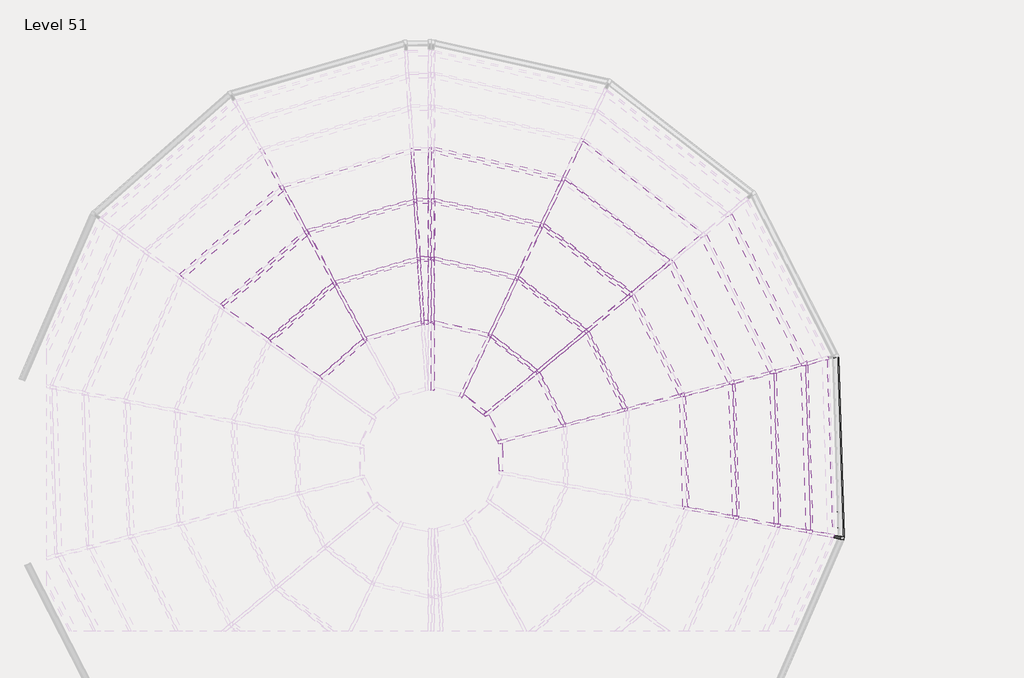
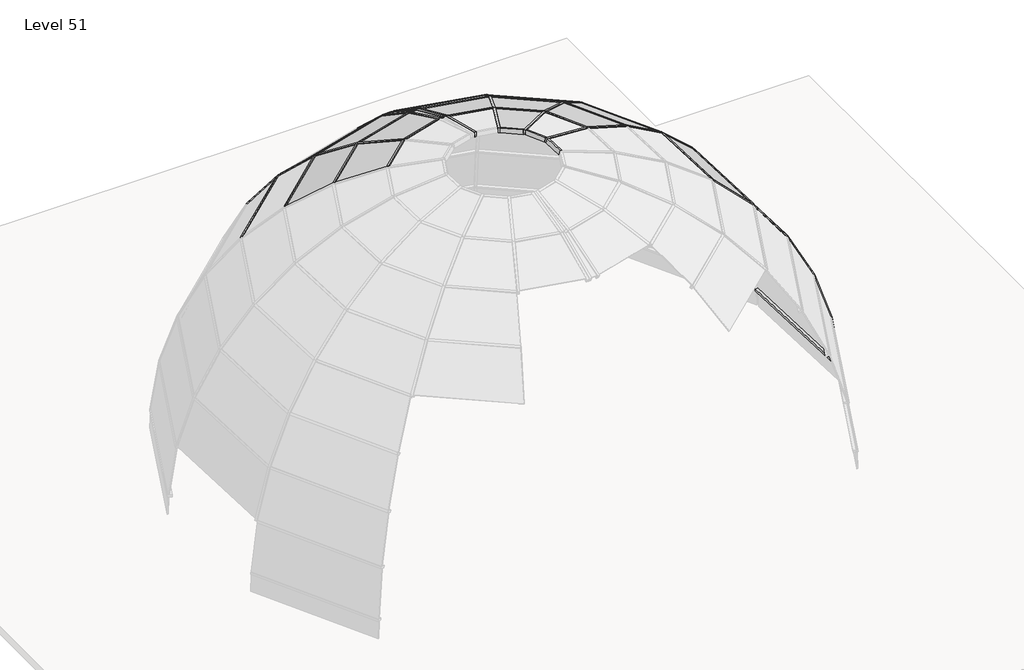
# One storey, part 4 of 5: 65 members, 22 plates.
"""IFC4 building model written with IfcOpenShell, lengths in millimetres."""

from ifc_helpers import new_model, si_unit, origin, place, context, project, spatial, transform, mapped, element, save
from components import member_1612663b, member_5eaec6db, member_d183bd50, member_4ad3c4be, member_d9f9b3f1, member_ae036e1e, member_bd7755a3, member_65743db0, member_8796500f, member_d21742c5, member_627e65e0, member_8f2bf440, member_043ce83e, member_7aba495a, member_8cadeb42, member_01029f2d, member_d292a8f8, member_6dba6968, member_1f719ff4, member_3d2e33c7, member_de41bbd8, member_34720ac7, member_73d42494, member_53f4afea, system_panel_glazed_481fb3e2, system_panel_glazed_4b6f7700, system_panel_glazed_05ceb18a, system_panel_glazed_4ea4b272, system_panel_glazed_3717604a, system_panel_glazed_08e752b3, system_panel_glazed_176c9cdb, system_panel_glazed_a0e9b47a, system_panel_glazed_7ce28d7e, system_panel_glazed_21487f38, system_panel_glazed_bc7ae3a6, system_panel_glazed_73e2dce4, system_panel_glazed_cf9631f2

model = new_model("IFC4")

# Units and contexts
model_context = context("Model", 3, world=origin())
ifc_project = project(units=[si_unit("LENGTHUNIT", "METRE", prefix="MILLI")], contexts=[model_context])

# Site, building, storey
site = spatial("IfcSite", under=ifc_project)
building = spatial("IfcBuilding", under=site)
storey = spatial("IfcBuildingStorey", under=building, Name="Level 51", Elevation=152400.0)

# Members
placement = place(None, origin())
member_shape = member_1612663b(model_context)
element("IfcMember", 1, ObjectType="Rectangular Mullion : 2.5\" x 5\" rectangular", at=placement, inside=storey, context=model_context, shape_type="MappedRepresentation", body=[
    mapped(member_shape, transform((2074.6498393, -3557.8360018, 161037.7653816), x_axis=(0.8767485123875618, 0.48094910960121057, 0.0), y_axis=(-0.19511831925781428, 0.3556918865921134, 0.9140088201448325), z_axis=(0.43959172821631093, -0.8013558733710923, 0.40569431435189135))),
])
element("IfcMember", 2, ObjectType="Rectangular Mullion : 2.5\" x 5\" rectangular", at=placement, inside=storey, context=model_context, shape_type="MappedRepresentation", body=[
    mapped(member_shape, transform((1404.7120455, -2336.5696508, 160419.4872466), x_axis=(0.8767485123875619, 0.4809491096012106, 0.0), y_axis=(-0.26541879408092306, 0.4838464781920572, 0.8339337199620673), z_axis=(0.40107968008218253, -0.7311501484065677, 0.5518646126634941))),
])
element("IfcMember", 3, ObjectType="Rectangular Mullion : 2.5\" x 5\" rectangular", at=placement, inside=storey, context=model_context, shape_type="MappedRepresentation", body=[
    mapped(member_shape, transform((793.4666131, -1222.2968246, 159578.4455769), x_axis=(0.876748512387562, 0.4809491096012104, 0.0), y_axis=(-0.32834652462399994, 0.5985608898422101, 0.7306937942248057), z_axis=(0.3514265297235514, -0.6406346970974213, 0.6827053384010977))),
])
element("IfcMember", 4, ObjectType="Rectangular Mullion : 2.5\" x 5\" rectangular", at=placement, inside=storey, context=model_context, shape_type="MappedRepresentation", body=[
    mapped(member_shape, transform((257.8925818, -245.9695463, 158538.0026411), x_axis=(0.876748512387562, 0.4809491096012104, 0.0), y_axis=(-0.38215351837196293, 0.6966486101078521, 0.6071568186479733), z_axis=(0.2920115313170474, -0.5323238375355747, 0.7945820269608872))),
])
element("IfcMember", 5, ObjectType="Rectangular Mullion : 2.5\" x 5\" rectangular", at=placement, inside=storey, context=model_context, shape_type="MappedRepresentation", body=[
    mapped(member_shape, transform((3332.4539608, -3193.7660529, 161037.7653816), x_axis=(0.9980933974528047, 0.0617217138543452, 0.0), y_axis=(-0.025040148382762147, 0.40492081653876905, 0.9140088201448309), z_axis=(0.056414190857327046, -0.9122661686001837, 0.405694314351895))),
])
element("IfcMember", 6, ObjectType="Rectangular Mullion : 2.5\" x 5\" rectangular", at=placement, inside=storey, context=model_context, shape_type="MappedRepresentation", body=[
    mapped(member_shape, transform((3246.4787339, -1803.472412, 160419.4872466), x_axis=(0.9980933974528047, 0.06172171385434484, 0.0), y_axis=(-0.034062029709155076, 0.5508124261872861, 0.8339337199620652), z_axis=(0.05147181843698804, -0.8323437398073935, 0.5518646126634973))),
])
element("IfcMember", 7, ObjectType="Rectangular Mullion : 2.5\" x 5\" rectangular", at=placement, inside=storey, context=model_context, shape_type="MappedRepresentation", body=[
    mapped(member_shape, transform((3168.0356826, -534.9805525, 159578.4455769), x_axis=(0.9980933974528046, 0.06172171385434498, 0.0), y_axis=(-0.042137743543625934, 0.6814036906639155, 0.7306937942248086), z_axis=(0.045099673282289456, -0.7293006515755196, 0.6827053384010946))),
])
element("IfcMember", 8, ObjectType="Rectangular Mullion : 2.5\" x 5\" rectangular", at=placement, inside=storey, context=model_context, shape_type="MappedRepresentation", body=[
    mapped(member_shape, transform((5829.9859298, -4276.5865903, 161037.7653816), x_axis=(0.6371882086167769, -0.7707082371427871, 0.0), y_axis=(0.31267194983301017, 0.25850363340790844, 0.9140088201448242), z_axis=(-0.7044341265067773, -0.582395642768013, 0.4056943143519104))),
])
element("IfcMember", 9, ObjectType="Rectangular Mullion : 2.5\" x 5\" rectangular", at=placement, inside=storey, context=model_context, shape_type="MappedRepresentation", body=[
    mapped(member_shape, transform((6903.5435386, -3389.0156308, 160419.4872466), x_axis=(0.6371882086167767, -0.7707082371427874, 0.0), y_axis=(0.42532660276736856, 0.35164162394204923, 0.8339337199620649), z_axis=(-0.6427195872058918, -0.5313727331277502, 0.5518646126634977))),
])
element("IfcMember", 10, ObjectType="Rectangular Mullion : 2.5\" x 5\" rectangular", at=placement, inside=storey, context=model_context, shape_type="MappedRepresentation", body=[
    mapped(member_shape, transform((7883.0481895, -2579.2035855, 159578.4455769), x_axis=(0.6371882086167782, -0.7707082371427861, 0.0), y_axis=(0.5261666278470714, 0.43501179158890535, 0.7306937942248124), z_axis=(-0.5631517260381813, -0.4655894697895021, 0.6827053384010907))),
])
element("IfcMember", 11, ObjectType="Rectangular Mullion : 2.5\" x 5\" rectangular", at=placement, inside=storey, context=model_context, shape_type="MappedRepresentation", body=[
    mapped(member_shape, transform((6424.0103903, -5443.5283524, 161037.7653816), x_axis=(0.2482453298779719, -0.9686971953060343, 0.0), y_axis=(0.39299494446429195, 0.10071171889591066, 0.9140088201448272), z_axis=(-0.8853977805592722, -0.22689842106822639, 0.40569431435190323))),
])
element("IfcMember", 12, ObjectType="Rectangular Mullion : 2.5\" x 5\" rectangular", at=placement, inside=storey, context=model_context, shape_type="MappedRepresentation", body=[
    mapped(member_shape, transform((7773.3566078, -5097.7351586, 160419.4872466), x_axis=(0.24824532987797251, -0.9686971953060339, 0.0), y_axis=(0.53458970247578, 0.13699781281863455, 0.8339337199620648), z_axis=(-0.8078292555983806, -0.20702015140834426, 0.551864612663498))),
])
element("IfcMember", 13, ObjectType="Rectangular Mullion : 2.5\" x 5\" rectangular", at=placement, inside=storey, context=model_context, shape_type="MappedRepresentation", body=[
    mapped(member_shape, transform((9004.4883934, -4782.2364479, 159578.4455769), x_axis=(0.24824532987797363, -0.9686971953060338, 0.0), y_axis=(0.6613347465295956, 0.16947841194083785, 0.7306937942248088), z_axis=(-0.7078210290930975, -0.18139132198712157, 0.6827053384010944))),
])
element("IfcMember", 14, ObjectType="Rectangular Mullion : 2.5\" x 5\" rectangular", at=placement, inside=storey, context=model_context, shape_type="MappedRepresentation", body=[
    mapped(member_shape, transform((10083.2076417, -4505.7960732, 158538.0026411), x_axis=(0.2482453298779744, -0.9686971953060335, 0.0), y_axis=(0.7697093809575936, 0.19725127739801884, 0.6071568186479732), z_axis=(-0.5881511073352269, -0.15072384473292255, 0.7945820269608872))),
])
element("IfcMember", 15, ObjectType="Rectangular Mullion : 2.5\" x 5\" rectangular", at=placement, inside=storey, context=model_context, shape_type="MappedRepresentation", body=[
    mapped(member_shape, transform((10979.5499293, -4276.0929338, 157327.0596321), x_axis=(0.24824532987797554, -0.9686971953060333, 0.0), y_axis=(0.8567031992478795, 0.21954494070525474, 0.4667543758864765), z_axis=(-0.4521436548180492, -0.11586959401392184, 0.8843869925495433))),
])
element("IfcMember", 16, ObjectType="Rectangular Mullion : 2.5\" x 5\" rectangular", at=placement, inside=storey, context=model_context, shape_type="MappedRepresentation", body=[
    mapped(member_shape, transform((11668.6168592, -4099.5076725, 155979.2538554), x_axis=(0.2482453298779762, -0.968697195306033, 0.0), y_axis=(0.9198997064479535, 0.23574013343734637, 0.3133865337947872), z_axis=(-0.30357665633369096, -0.07779674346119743, 0.9496256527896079))),
])
element("IfcMember", 17, ObjectType="Rectangular Mullion : 2.5\" x 5\" rectangular", at=placement, inside=storey, context=model_context, shape_type="MappedRepresentation", body=[
    mapped(member_shape, transform((9080.8140565, -7253.0979003, 159578.4455769), x_axis=(-0.18798237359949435, -0.9821724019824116, 0.0), y_axis=(0.6705343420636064, -0.12833656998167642, 0.7306937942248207), z_axis=(-0.7176672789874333, 0.1373575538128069, 0.6827053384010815))),
])
element("IfcMember", 18, ObjectType="Rectangular Mullion : 2.5\" x 5\" rectangular", at=placement, inside=storey, context=model_context, shape_type="MappedRepresentation", body=[
    mapped(member_shape, transform((10174.5389897, -7462.4308123, 158538.0026411), x_axis=(-0.18798237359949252, -0.9821724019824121, 0.0), y_axis=(0.7804165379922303, -0.14936741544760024, 0.6071568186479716), z_axis=(-0.596332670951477, 0.114134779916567, 0.7945820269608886))),
])
element("IfcMember", 19, ObjectType="Rectangular Mullion : 2.5\" x 5\" rectangular", at=placement, inside=storey, context=model_context, shape_type="MappedRepresentation", body=[
    mapped(member_shape, transform((11083.3499802, -7636.3722169, 157327.0596321), x_axis=(-0.1879823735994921, -0.9821724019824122, 0.0), y_axis=(0.8686204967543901, -0.1662491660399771, 0.46675437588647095), z_axis=(-0.45843326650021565, 0.08774159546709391, 0.8843869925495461))),
])
element("IfcMember", 20, ObjectType="Rectangular Mullion : 2.5\" x 5\" rectangular", at=placement, inside=storey, context=model_context, shape_type="MappedRepresentation", body=[
    mapped(member_shape, transform((11782.0022783, -7770.0904084, 155979.2538554), x_axis=(-0.18798237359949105, -0.9821724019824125, 0.0), y_axis=(0.9326961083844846, -0.17851288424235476, 0.31338653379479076), z_axis=(-0.3077996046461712, 0.058911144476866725, 0.9496256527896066))),
])
element("IfcMember", 21, ObjectType="Rectangular Mullion : 2.5\" x 5\" rectangular", at=placement, inside=storey, context=model_context, shape_type="MappedRepresentation", body=[
    mapped(member_shape, transform((4795.5140645, -3473.7876769, 161037.7653816), x_axis=(0.9047619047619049, -0.42591770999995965, 0.0), y_axis=(0.17279239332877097, 0.36705676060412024, 0.9140088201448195), z_axis=(-0.3892925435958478, -0.8269603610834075, 0.4056943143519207))),
])
element("IfcMember", 22, ObjectType="Rectangular Mullion : 2.5\" x 5\" rectangular", at=placement, inside=storey, context=model_context, shape_type="MappedRepresentation", body=[
    mapped(member_shape, transform((5388.7959009, -2213.5000866, 160419.4872466), x_axis=(0.904761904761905, -0.4259177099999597, 0.0), y_axis=(0.23504891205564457, 0.4993060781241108, 0.8339337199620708), z_axis=(-0.35518714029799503, -0.754511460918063, 0.551864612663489))),
])
element("IfcMember", 23, ObjectType="Rectangular Mullion : 2.5\" x 5\" rectangular", at=placement, inside=storey, context=model_context, shape_type="MappedRepresentation", body=[
    mapped(member_shape, transform((5930.1011027, -1063.6246202, 159578.4455769), x_axis=(0.9047619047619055, -0.4259177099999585, 0.0), y_axis=(0.29077629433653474, 0.61768578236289, 0.730693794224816), z_axis=(-0.31121542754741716, -0.661103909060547, 0.6827053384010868))),
])
element("IfcMember", 24, ObjectType="Rectangular Mullion : 2.5\" x 5\" rectangular", at=placement, inside=storey, context=model_context, shape_type="MappedRepresentation", body=[
    mapped(member_shape, transform((6404.3934143, -56.1022627, 158538.0026411), x_axis=(0.9047619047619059, -0.42591770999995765, 0.0), y_axis=(0.33842655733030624, 0.7189075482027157, 0.6071568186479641), z_axis=(-0.2585988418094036, -0.5493323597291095, 0.7945820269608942))),
])
member_2_shape = member_5eaec6db(model_context)
element("IfcMember", 25, ObjectType="Rectangular Mullion : 2.5\" x 5\" rectangular", at=placement, inside=storey, context=model_context, shape_type="MappedRepresentation", body=[
    mapped(member_2_shape, transform((12251.0888758, -7859.8709926, 154532.0243606), x_axis=(-0.1879823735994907, -0.9821724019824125, 0.0), y_axis=(0.9708634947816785, -0.18581791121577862, 0.1513135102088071), z_axis=(-0.14861595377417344, 0.028444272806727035, 0.988485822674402))),
])
member_3_shape = member_d183bd50(model_context)
element("IfcMember", 26, ObjectType="Rectangular Mullion : 2.5\" x 5\" rectangular", at=placement, inside=storey, context=model_context, shape_type="MappedRepresentation", body=[
    mapped(member_3_shape, transform((12476.5992898, -7871.4852016, 153025.5719668), x_axis=(0.07006123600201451, 0.00216421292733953, -0.9975403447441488), y_axis=(0.9970647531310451, 0.030799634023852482, 0.07009465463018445), z_axis=(0.030875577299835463, -0.9995232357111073, 0.0))),
])
member_4_shape = member_4ad3c4be(model_context)
element("IfcMember", 27, ObjectType="Rectangular Mullion : 2.5\" x 5\" rectangular", at=placement, inside=storey, context=model_context, shape_type="MappedRepresentation", body=[
    mapped(member_4_shape, transform((11082.3696806, -7604.6373542, 157327.0596321), x_axis=(0.5479103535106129, 0.016925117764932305, -0.83636582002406), y_axis=(0.8359670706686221, 0.025823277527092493, 0.5481717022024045), z_axis=(0.030875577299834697, -0.9995232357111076, 0.0))),
])
element("IfcMember", 28, ObjectType="Rectangular Mullion : 2.5\" x 5\" rectangular", at=placement, inside=storey, context=model_context, shape_type="MappedRepresentation", body=[
    mapped(member_4_shape, transform((10965.1465515, -4247.7979659, 157327.0596321), x_axis=(0.48851970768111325, 0.24867792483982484, -0.8363658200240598), y_axis=(0.745352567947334, 0.37941709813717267, 0.5481717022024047), z_axis=(0.45364969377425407, -0.8911800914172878, 0.0))),
])
member_5_shape = member_d9f9b3f1(model_context)
element("IfcMember", 29, ObjectType="Rectangular Mullion : 2.5\" x 5\" rectangular", at=placement, inside=storey, context=model_context, shape_type="MappedRepresentation", body=[
    mapped(member_5_shape, transform((11654.2134814, -4071.2127046, 155979.2538554), x_axis=(0.35608952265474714, 0.18126516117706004, -0.9167023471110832), y_axis=(0.8169468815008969, 0.41586173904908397, 0.39957077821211), z_axis=(0.45364969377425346, -0.8911800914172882, 0.0))),
])
element("IfcMember", 30, ObjectType="Rectangular Mullion : 2.5\" x 5\" rectangular", at=placement, inside=storey, context=model_context, shape_type="MappedRepresentation", body=[
    mapped(member_5_shape, transform((11781.0219787, -7738.3555457, 155979.2538554), x_axis=(0.3993802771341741, 0.01233697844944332, -0.9167023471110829), y_axis=(0.9162652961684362, 0.028303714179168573, 0.39957077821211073), z_axis=(0.030875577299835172, -0.9995232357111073, 0.0))),
])
member_6_shape = member_ae036e1e(model_context)
element("IfcMember", 31, ObjectType="Rectangular Mullion : 2.5\" x 5\" rectangular", at=placement, inside=storey, context=model_context, shape_type="MappedRepresentation", body=[
    mapped(member_6_shape, transform((4191.8185999, -4828.9449578, 161416.1055894), x_axis=(-0.5929825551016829, -0.7641063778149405, 0.2539943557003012), y_axis=(0.15572098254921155, 0.2006591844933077, 0.9672057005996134), z_axis=(-0.7900143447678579, 0.6130883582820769, 0.0))),
])
element("IfcMember", 32, ObjectType="Rectangular Mullion : 2.5\" x 5\" rectangular", at=placement, inside=storey, context=model_context, shape_type="MappedRepresentation", body=[
    mapped(member_6_shape, transform((4706.5997856, -5245.5566832, 161416.1055894), x_axis=(-0.8619544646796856, -0.4387725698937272, 0.2539943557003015), y_axis=(0.22635471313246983, 0.11522446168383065, 0.9672057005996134), z_axis=(-0.45364969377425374, 0.8911800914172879, 0.0))),
])
element("IfcMember", 33, ObjectType="Rectangular Mullion : 2.5\" x 5\" rectangular", at=placement, inside=storey, context=model_context, shape_type="MappedRepresentation", body=[
    mapped(member_6_shape, transform((4994.9118796, -5841.7455253, 161416.1055894), x_axis=(-0.966744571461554, -0.02986303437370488, 0.2539943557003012), y_axis=(0.25387326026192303, 0.007842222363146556, 0.9672057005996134), z_axis=(-0.03087557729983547, 0.9995232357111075, 0.0))),
])
member_7_shape = member_bd7755a3(model_context)
element("IfcMember", 34, ObjectType="Rectangular Mullion : 2.5\" x 5\" rectangular", at=placement, inside=storey, context=model_context, shape_type="MappedRepresentation", body=[
    mapped(member_7_shape, transform((3137.5375649, -543.8081974, 159578.4455769), x_axis=(-0.22029247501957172, 0.7610756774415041, -0.6101106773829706), y_axis=(-0.1696327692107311, 0.5860544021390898, 0.7923162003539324), z_axis=(0.9605706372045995, 0.2780360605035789, 0.0))),
])
element("IfcMember", 35, ObjectType="Rectangular Mullion : 2.5\" x 5\" rectangular", at=placement, inside=storey, context=model_context, shape_type="MappedRepresentation", body=[
    mapped(member_7_shape, transform((769.6329283, -1243.2734299, 159578.4455769), x_axis=(-0.523467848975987, 0.5947658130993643, -0.6101106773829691), y_axis=(-0.4030882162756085, 0.45799009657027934, 0.7923162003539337), z_axis=(0.7506672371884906, 0.6606804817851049, 0.0))),
])
element("IfcMember", 36, ObjectType="Rectangular Mullion : 2.5\" x 5\" rectangular", at=placement, inside=storey, context=model_context, shape_type="MappedRepresentation", body=[
    mapped(member_7_shape, transform((7857.965234, -2559.7380301, 159578.4455769), x_axis=(0.4857598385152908, 0.6259411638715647, -0.6101106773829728), y_axis=(0.37405175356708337, 0.48199618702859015, 0.7923162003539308), z_axis=(0.7900143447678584, -0.6130883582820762, 0.0))),
])
element("IfcMember", 37, ObjectType="Rectangular Mullion : 2.5\" x 5\" rectangular", at=placement, inside=storey, context=model_context, shape_type="MappedRepresentation", body=[
    mapped(member_7_shape, transform((8990.0850156, -4753.94148, 159578.4455769), x_axis=(0.7060964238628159, 0.35943400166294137, -0.6101106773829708), y_axis=(0.5437184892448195, 0.2767765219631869, 0.7923162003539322), z_axis=(0.45364969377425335, -0.8911800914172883, 0.0))),
])
element("IfcMember", 38, ObjectType="Rectangular Mullion : 2.5\" x 5\" rectangular", at=placement, inside=storey, context=model_context, shape_type="MappedRepresentation", body=[
    mapped(member_7_shape, transform((9079.8337569, -7221.3630376, 159578.4455769), x_axis=(0.7919384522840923, 0.02446322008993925, -0.6101106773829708), y_axis=(0.6098197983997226, 0.018837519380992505, 0.7923162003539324), z_axis=(0.03087557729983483, -0.9995232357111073, 0.0))),
])
member_8_shape = member_65743db0(model_context)
element("IfcMember", 39, ObjectType="Rectangular Mullion : 2.5\" x 5\" rectangular", at=placement, inside=storey, context=model_context, shape_type="MappedRepresentation", body=[
    mapped(member_8_shape, transform((5899.1162754, -1056.6962021, 159578.4455769), x_axis=(0.17289756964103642, 0.7732214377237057, -0.6101106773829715), y_axis=(0.13313706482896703, 0.5954070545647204, 0.7923162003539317), z_axis=(0.9759000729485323, -0.21821789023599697, 0.0))),
])
member_9_shape = member_8796500f(model_context)
element("IfcMember", 40, ObjectType="Rectangular Mullion : 2.5\" x 5\" rectangular", at=placement, inside=storey, context=model_context, shape_type="MappedRepresentation", body=[
    mapped(member_9_shape, transform((3454.1673289, -1797.056848, 160419.4872466), x_axis=(-0.02708153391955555, 0.8767001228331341, -0.4802743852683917), y_axis=(-0.014828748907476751, 0.4800454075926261, 0.8771183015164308), z_axis=(0.999523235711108, 0.030875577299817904, 0.0))),
])
member_10_shape = member_d21742c5(model_context)
element("IfcMember", 41, ObjectType="Rectangular Mullion : 2.5\" x 5\" rectangular", at=placement, inside=storey, context=model_context, shape_type="MappedRepresentation", body=[
    mapped(member_10_shape, transform((3215.9806162, -1812.3000569, 160419.4872466), x_axis=(-0.2451950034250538, 0.8471099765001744, -0.4714701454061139), y_axis=(-0.13108570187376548, 0.45288037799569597, 0.8818820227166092), z_axis=(0.9605706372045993, 0.278036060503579, 0.0))),
])
element("IfcMember", 42, ObjectType="Rectangular Mullion : 2.5\" x 5\" rectangular", at=placement, inside=storey, context=model_context, shape_type="MappedRepresentation", body=[
    mapped(member_10_shape, transform((1380.8783608, -2357.5462561, 160419.4872466), x_axis=(-0.582642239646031, 0.6619999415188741, -0.47147014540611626), y_axis=(-0.31149112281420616, 0.35391719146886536, 0.8818820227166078), z_axis=(0.750667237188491, 0.6606804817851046, 0.0))),
])
element("IfcMember", 43, ObjectType="Rectangular Mullion : 2.5\" x 5\" rectangular", at=placement, inside=storey, context=model_context, shape_type="MappedRepresentation", body=[
    mapped(member_10_shape, transform((6878.4605831, -3369.5500754, 160419.4872466), x_axis=(0.5406716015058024, 0.6966994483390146, -0.47147014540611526), y_axis=(0.2890528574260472, 0.37246817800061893, 0.8818820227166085), z_axis=(0.790014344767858, -0.6130883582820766, 0.0))),
])
element("IfcMember", 44, ObjectType="Rectangular Mullion : 2.5\" x 5\" rectangular", at=placement, inside=storey, context=model_context, shape_type="MappedRepresentation", body=[
    mapped(member_10_shape, transform((7758.95323, -5069.4401907, 160419.4872466), x_axis=(0.78591570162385, 0.40006550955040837, -0.4714701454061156), y_axis=(0.4201648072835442, 0.21388228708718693, 0.8818820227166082), z_axis=(0.45364969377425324, -0.8911800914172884, 0.0))),
])
member_11_shape = member_627e65e0(model_context)
element("IfcMember", 45, ObjectType="Rectangular Mullion : 2.5\" x 5\" rectangular", at=placement, inside=storey, context=model_context, shape_type="MappedRepresentation", body=[
    mapped(member_11_shape, transform((5357.8110736, -2206.5716686, 160419.4872466), x_axis=(0.19244243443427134, 0.8606287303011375, -0.47147014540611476), y_axis=(0.10288322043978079, 0.4601077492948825, 0.8818820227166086), z_axis=(0.9759000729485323, -0.21821789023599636, 0.0))),
])
member_12_shape = member_8f2bf440(model_context)
element("IfcMember", 46, ObjectType="Rectangular Mullion : 2.5\" x 5\" rectangular", at=placement, inside=storey, context=model_context, shape_type="MappedRepresentation", body=[
    mapped(member_12_shape, transform((3301.955843, -3202.5936978, 161037.7653816), x_axis=(-0.2633191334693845, 0.9097259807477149, -0.32103220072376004), y_axis=(-0.08925852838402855, 0.308374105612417, 0.9470682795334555), z_axis=(0.9605706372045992, 0.2780360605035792, 0.0))),
])
element("IfcMember", 47, ObjectType="Rectangular Mullion : 2.5\" x 5\" rectangular", at=placement, inside=storey, context=model_context, shape_type="MappedRepresentation", body=[
    mapped(member_12_shape, transform((2050.8161546, -3578.8126071, 161037.7653816), x_axis=(-0.6257095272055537, 0.7109331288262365, -0.3210322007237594), y_axis=(-0.2120997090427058, 0.2409883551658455, 0.9470682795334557), z_axis=(0.7506672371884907, 0.6606804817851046, 0.0))),
])
element("IfcMember", 48, ObjectType="Rectangular Mullion : 2.5\" x 5\" rectangular", at=placement, inside=storey, context=model_context, shape_type="MappedRepresentation", body=[
    mapped(member_12_shape, transform((6409.6070125, -5415.2333845, 161037.7653816), x_axis=(0.8440083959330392, 0.42963723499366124, -0.32103220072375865), y_axis=(0.28609750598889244, 0.14563615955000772, 0.947068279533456), z_axis=(0.45364969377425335, -0.8911800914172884, 0.0))),
])
element("IfcMember", 49, ObjectType="Rectangular Mullion : 2.5\" x 5\" rectangular", at=placement, inside=storey, context=model_context, shape_type="MappedRepresentation", body=[
    mapped(member_12_shape, transform((5804.9029743, -4257.121035, 161037.7653816), x_axis=(0.580636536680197, 0.7481975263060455, -0.3210322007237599), y_axis=(0.19682110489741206, 0.25362004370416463, 0.9470682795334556), z_axis=(0.7900143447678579, -0.6130883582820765, 0.0))),
])
member_13_shape = member_043ce83e(model_context)
element("IfcMember", 50, ObjectType="Rectangular Mullion : 2.5\" x 5\" rectangular", at=placement, inside=storey, context=model_context, shape_type="MappedRepresentation", body=[
    mapped(member_13_shape, transform((4166.7356444, -4809.4794024, 161416.1055894), x_axis=(0.9047619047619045, -0.42591770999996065, 0.0), y_axis=(0.10573608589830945, 0.22461142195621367, 0.9686947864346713), z_axis=(-0.41258426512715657, -0.8764381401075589, 0.24825472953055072))),
])
element("IfcMember", 51, ObjectType="Rectangular Mullion : 2.5\" x 5\" rectangular", at=placement, inside=storey, context=model_context, shape_type="MappedRepresentation", body=[
    mapped(member_13_shape, transform((4692.1964078, -5217.2617153, 161416.1055894), x_axis=(0.637188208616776, -0.7707082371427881, 0.0), y_axis=(0.19133196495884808, 0.15818498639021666, 0.9686947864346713), z_axis=(-0.7465810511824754, -0.6172408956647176, 0.24825472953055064))),
])
element("IfcMember", 52, ObjectType="Rectangular Mullion : 2.5\" x 5\" rectangular", at=placement, inside=storey, context=model_context, shape_type="MappedRepresentation", body=[
    mapped(member_13_shape, transform((4993.93158, -5810.0106625, 161416.1055894), x_axis=(0.24824532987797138, -0.9686971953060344, 0.0), y_axis=(0.24048366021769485, 0.061628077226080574, 0.968694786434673), z_axis=(-0.9383719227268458, -0.2404739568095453, 0.24825472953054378))),
])
member_14_shape = member_7aba495a(model_context)
element("IfcMember", 53, ObjectType="Rectangular Mullion : 2.5\" x 5\" rectangular", at=placement, inside=storey, context=model_context, shape_type="MappedRepresentation", body=[
    mapped(member_14_shape, transform((4764.5292371, -3466.8592589, 161037.7653816), x_axis=(0.20666724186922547, 0.92424400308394, -0.32103220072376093), y_axis=(0.07005496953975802, 0.3132953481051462, 0.9470682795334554), z_axis=(0.9759000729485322, -0.21821789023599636, 0.0))),
])
member_15_shape = member_8cadeb42(model_context)
element("IfcMember", 54, ObjectType="Rectangular Mullion : 2.5\" x 5\" rectangular", at=placement, inside=storey, context=model_context, shape_type="MappedRepresentation", body=[
    mapped(member_15_shape, transform((3454.1673289, -3190.0062899, 161037.7653816), x_axis=(-0.02916772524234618, 0.9442355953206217, -0.3279761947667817), y_axis=(-0.010126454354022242, 0.3278198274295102, 0.9446859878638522), z_axis=(0.9995232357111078, 0.03087557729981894, 0.0))),
])
member_16_shape = member_01029f2d(model_context)
element("IfcMember", 55, ObjectType="Rectangular Mullion : 2.5\" x 5\" rectangular", at=placement, inside=storey, context=model_context, shape_type="MappedRepresentation", body=[
    mapped(member_16_shape, transform((234.058897, -266.9461516, 158538.0026411), x_axis=(-0.44940619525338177, 0.5106167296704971, -0.7330106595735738), y_axis=(-0.48428583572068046, 0.5502470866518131, 0.6802171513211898), z_axis=(0.7506672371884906, 0.6606804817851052, 0.0))),
])
element("IfcMember", 56, ObjectType="Rectangular Mullion : 2.5\" x 5\" rectangular", at=placement, inside=storey, context=model_context, shape_type="MappedRepresentation", body=[
    mapped(member_16_shape, transform((10068.8042639, -4477.5011053, 158538.0026411), x_axis=(0.6061959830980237, 0.3085803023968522, -0.7330106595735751), y_axis=(0.6532445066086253, 0.3325300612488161, 0.6802171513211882), z_axis=(0.45364969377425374, -0.891180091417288, 0.0))),
])
element("IfcMember", 57, ObjectType="Rectangular Mullion : 2.5\" x 5\" rectangular", at=placement, inside=storey, context=model_context, shape_type="MappedRepresentation", body=[
    mapped(member_16_shape, transform((10173.5586901, -7430.6959496, 158538.0026411), x_axis=(0.6798928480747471, 0.021002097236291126, -0.7330106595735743), y_axis=(0.7326611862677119, 0.022632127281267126, 0.6802171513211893), z_axis=(0.030875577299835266, -0.9995232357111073, 0.0))),
])
member_17_shape = member_d292a8f8(model_context)
element("IfcMember", 58, ObjectType="Rectangular Mullion : 2.5\" x 5\" rectangular", at=placement, inside=storey, context=model_context, shape_type="MappedRepresentation", body=[
    mapped(member_17_shape, transform((3454.1673289, -526.1418588, 159578.4455769), x_axis=(-0.024243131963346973, 0.7848136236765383, -0.6192574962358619), y_axis=(-0.01911993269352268, 0.618962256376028, 0.7851879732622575), z_axis=(0.9995232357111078, 0.030875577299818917, 0.0))),
])
member_18_shape = member_6dba6968(model_context)
element("IfcMember", 59, ObjectType="Rectangular Mullion : 2.5\" x 5\" rectangular", at=placement, inside=storey, context=model_context, shape_type="MappedRepresentation", body=[
    mapped(member_18_shape, transform((6373.408587, -49.1738447, 158538.0026411), x_axis=(0.14843555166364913, 0.6638239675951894, -0.733010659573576), y_axis=(0.15995603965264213, 0.7153451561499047, 0.6802171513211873), z_axis=(0.9759000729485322, -0.2182178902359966, 0.0))),
])
member_19_shape = member_1f719ff4(model_context)
element("IfcMember", 60, ObjectType="Rectangular Mullion : 2.5\" x 5\" rectangular", at=placement, inside=storey, context=model_context, shape_type="MappedRepresentation", body=[
    mapped(member_19_shape, transform((3517.6370544, -3188.0456907, 161037.7653816), x_axis=(0.9999214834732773, 0.005083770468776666, 0.011453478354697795), y_axis=(-0.012531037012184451, 0.405662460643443, 0.9139370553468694), z_axis=(0.0, -0.9140088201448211, 0.4056943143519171))),
])
member_20_shape = member_3d2e33c7(model_context)
element("IfcMember", 61, ObjectType="Rectangular Mullion : 2.5\" x 5\" rectangular", at=placement, inside=storey, context=model_context, shape_type="MappedRepresentation", body=[
    mapped(member_20_shape, transform((3517.6370544, -1795.0962488, 160419.4872466), x_axis=(0.9998547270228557, 0.009406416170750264, 0.014214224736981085), y_axis=(-0.017044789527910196, 0.551784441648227, 0.8338125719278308), z_axis=(0.0, -0.8339337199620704, 0.5518646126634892))),
])
member_21_shape = member_de41bbd8(model_context)
element("IfcMember", 62, ObjectType="Rectangular Mullion : 2.5\" x 5\" rectangular", at=placement, inside=storey, context=model_context, shape_type="MappedRepresentation", body=[
    mapped(member_21_shape, transform((3517.6370544, -524.1812596, 159578.4455769), x_axis=(0.999777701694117, 0.014394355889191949, 0.015406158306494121), y_axis=(-0.021084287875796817, 0.68255357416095, 0.7305313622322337), z_axis=(0.0, -0.7306937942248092, 0.6827053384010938))),
])
member_22_shape = member_34720ac7(model_context)
element("IfcMember", 63, ObjectType="Rectangular Mullion : 2.5\" x 5\" rectangular", at=placement, inside=storey, context=model_context, shape_type="MappedRepresentation", body=[
    mapped(member_22_shape, transform((3517.6370544, -3188.0456907, 161037.7653816), x_axis=(-0.9984627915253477, 0.013759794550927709, 0.05369098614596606), y_axis=(0.055426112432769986, 0.24787311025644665, 0.9672057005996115), z_axis=(0.0, 0.9686947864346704, -0.24825472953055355))),
])
member_23_shape = member_73d42494(model_context)
element("IfcMember", 64, ObjectType="Rectangular Mullion : 2.5\" x 5\" rectangular", at=placement, inside=storey, context=model_context, shape_type="MappedRepresentation", body=[
    mapped(member_23_shape, transform((3517.6370544, -1795.0962488, 160419.4872466), x_axis=(-0.9959105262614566, 0.03665246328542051, 0.0825761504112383), y_axis=(0.09034502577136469, 0.40403523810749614, 0.9102710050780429), z_axis=(0.0, 0.9140088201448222, -0.4056943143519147))),
])
member_24_shape = member_53f4afea(model_context)
element("IfcMember", 65, ObjectType="Rectangular Mullion : 2.5\" x 5\" rectangular", at=placement, inside=storey, context=model_context, shape_type="MappedRepresentation", body=[
    mapped(member_24_shape, transform((3517.6370544, -524.1812596, 159578.4455769), x_axis=(-0.9924720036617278, 0.06758780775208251, 0.10213329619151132), y_axis=(0.12247171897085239, 0.5477101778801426, 0.8276558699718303), z_axis=(0.0, 0.8339337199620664, -0.5518646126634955))),
])

# Plates
system_panel_glazed_shape = system_panel_glazed_481fb3e2(model_context)
element("IfcPlate", 66, ObjectType="System Panel : Glazed", at=placement, inside=storey, context=model_context, shape_type="MappedRepresentation", body=[
    mapped(system_panel_glazed_shape, transform((4467.1204183, -4964.8498039, 161399.9769479), x_axis=(0.7900143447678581, -0.6130883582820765, 0.0), y_axis=(-0.1557209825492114, -0.20065918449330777, -0.9672057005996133), z_axis=(0.5929825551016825, 0.7641063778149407, -0.2539943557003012))),
])
system_panel_glazed_2_shape = system_panel_glazed_4b6f7700(model_context)
element("IfcPlate", 67, ObjectType="System Panel : Glazed", at=placement, inside=storey, context=model_context, shape_type="MappedRepresentation", body=[
    mapped(system_panel_glazed_2_shape, transform((4178.692377, -3306.2473352, 161024.6204715), x_axis=(0.9759000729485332, -0.2182178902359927, 0.0), y_axis=(-0.09034502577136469, -0.404035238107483, -0.9102710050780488), z_axis=(0.19863741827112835, 0.8883335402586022, -0.41401291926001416))),
])
system_panel_glazed_3_shape = system_panel_glazed_05ceb18a(model_context)
element("IfcPlate", 68, ObjectType="System Panel : Glazed", at=placement, inside=storey, context=model_context, shape_type="MappedRepresentation", body=[
    mapped(system_panel_glazed_3_shape, transform((1564.0807369, -3968.6997254, 161024.6204715), x_axis=(0.7506672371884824, 0.6606804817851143, 0.0), y_axis=(0.2735302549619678, -0.3107859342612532, -0.9102710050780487), z_axis=(-0.6013982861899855, 0.6833106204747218, -0.4140129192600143))),
])
element("IfcPlate", 69, ObjectType="System Panel : Glazed", at=placement, inside=storey, context=model_context, shape_type="MappedRepresentation", body=[
    mapped(system_panel_glazed_3_shape, transform((2695.5163508, -3348.0394751, 161024.6204715), x_axis=(0.9605706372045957, 0.278036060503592, 0.0), y_axis=(0.1151105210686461, -0.3976886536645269, -0.9102710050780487), z_axis=(-0.2530881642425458, 0.874379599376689, -0.41401291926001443))),
])
element("IfcPlate", 70, ObjectType="System Panel : Glazed", at=placement, inside=storey, context=model_context, shape_type="MappedRepresentation", body=[
    mapped(system_panel_glazed_3_shape, transform((5330.4689278, -3852.3548466, 161024.6204715), x_axis=(0.7900143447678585, -0.6130883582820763, 0.0), y_axis=(-0.2538265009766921, -0.3270761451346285, -0.9102710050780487), z_axis=(0.5580765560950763, 0.7191271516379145, -0.41401291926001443))),
])
element("IfcPlate", 71, ObjectType="System Panel : Glazed", at=placement, inside=storey, context=model_context, shape_type="MappedRepresentation", body=[
    mapped(system_panel_glazed_3_shape, transform((6152.7542489, -4846.9464942, 161024.6204715), x_axis=(0.4536496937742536, -0.8911800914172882, 0.0), y_axis=(-0.3689600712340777, -0.18781683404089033, -0.9102710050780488), z_axis=(0.8112153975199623, 0.41294416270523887, -0.41401291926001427))),
])
system_panel_glazed_4_shape = system_panel_glazed_4ea4b272(model_context)
element("IfcPlate", 72, ObjectType="System Panel : Glazed", at=placement, inside=storey, context=model_context, shape_type="MappedRepresentation", body=[
    mapped(system_panel_glazed_4_shape, transform((3408.2758219, -3162.3925499, 161024.879455), x_axis=(0.9995232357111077, 0.03087557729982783, 0.0), y_axis=(0.012531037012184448, -0.4056624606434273, -0.9139370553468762), z_axis=(-0.02821833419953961, 0.9135013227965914, -0.40585595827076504))),
])
system_panel_glazed_5_shape = system_panel_glazed_3717604a(model_context)
element("IfcPlate", 73, ObjectType="System Panel : Glazed", at=placement, inside=storey, context=model_context, shape_type="MappedRepresentation", body=[
    mapped(system_panel_glazed_5_shape, transform((4474.7063165, -1982.1764289, 160401.668006), x_axis=(0.9759000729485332, -0.21821789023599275, 0.0), y_axis=(-0.12247171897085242, -0.5477101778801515, -0.8276558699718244), z_axis=(0.18060931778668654, 0.8077094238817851, -0.5612359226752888))),
])
system_panel_glazed_6_shape = system_panel_glazed_08e752b3(model_context)
element("IfcPlate", 74, ObjectType="System Panel : Glazed", at=placement, inside=storey, context=model_context, shape_type="MappedRepresentation", body=[
    mapped(system_panel_glazed_6_shape, transform((667.6982441, -2950.2271234, 160401.668006), x_axis=(0.7506672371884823, 0.6606804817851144, 0.0), y_axis=(0.3707976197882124, -0.4213014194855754, -0.8276558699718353), z_axis=(-0.5468160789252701, 0.6212941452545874, -0.5612359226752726))),
])
element("IfcPlate", 75, ObjectType="System Panel : Glazed", at=placement, inside=storey, context=model_context, shape_type="MappedRepresentation", body=[
    mapped(system_panel_glazed_6_shape, transform((2318.2891376, -2044.7790852, 160401.668006), x_axis=(0.9605706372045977, 0.2780360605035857, 0.0), y_axis=(0.15604382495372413, -0.5391067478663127, -0.8276558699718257), z_axis=(-0.23011817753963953, 0.7950219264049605, -0.5612359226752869))),
])
element("IfcPlate", 76, ObjectType="System Panel : Glazed", at=placement, inside=storey, context=model_context, shape_type="MappedRepresentation", body=[
    mapped(system_panel_glazed_6_shape, transform((6162.2805009, -2780.4978034, 160401.668006), x_axis=(0.7900143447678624, -0.6130883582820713, 0.0), y_axis=(-0.3440872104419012, -0.44338442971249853, -0.8276558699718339), z_axis=(0.5074261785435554, 0.6538600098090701, -0.5612359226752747))),
])
element("IfcPlate", 77, ObjectType="System Panel : Glazed", at=placement, inside=storey, context=model_context, shape_type="MappedRepresentation", body=[
    mapped(system_panel_glazed_6_shape, transform((7361.8685695, -4231.4543545, 160401.668006), x_axis=(0.4536496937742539, -0.8911800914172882, 0.0), y_axis=(-0.5001622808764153, -0.2546045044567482, -0.8276558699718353), z_axis=(0.7375904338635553, 0.3754658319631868, -0.5612359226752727))),
])
system_panel_glazed_7_shape = system_panel_glazed_176c9cdb(model_context)
element("IfcPlate", 78, ObjectType="System Panel : Glazed", at=placement, inside=storey, context=model_context, shape_type="MappedRepresentation", body=[
    mapped(system_panel_glazed_7_shape, transform((3365.3678142, -1773.3137152, 160401.9597341), x_axis=(0.9995232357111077, 0.030875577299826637, 0.0), y_axis=(0.017044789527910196, -0.5517844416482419, -0.8338125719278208), z_axis=(-0.025744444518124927, 0.833415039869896, -0.5520476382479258))),
])
system_panel_glazed_8_shape = system_panel_glazed_a0e9b47a(model_context)
element("IfcPlate", 79, ObjectType="System Panel : Glazed", at=placement, inside=storey, context=model_context, shape_type="MappedRepresentation", body=[
    mapped(system_panel_glazed_8_shape, transform((4744.5668458, -775.0309103, 159556.4887654), x_axis=(0.9759000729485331, -0.218217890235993, 0.0), y_axis=(-0.15090926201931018, -0.6748867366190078, -0.7223256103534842), z_axis=(0.15762437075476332, 0.7049176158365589, -0.6915531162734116))),
])
system_panel_glazed_9_shape = system_panel_glazed_7ce28d7e(model_context)
element("IfcPlate", 80, ObjectType="System Panel : Glazed", at=placement, inside=storey, context=model_context, shape_type="MappedRepresentation", body=[
    mapped(system_panel_glazed_9_shape, transform((1974.3747138, -856.6091171, 159556.4887654), x_axis=(0.9605706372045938, 0.27803606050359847, 0.0), y_axis=(0.19227670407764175, -0.6642856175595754, -0.7223256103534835), z_axis=(-0.2008325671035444, 0.6938447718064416, -0.6915531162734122))),
])
element("IfcPlate", 81, ObjectType="System Panel : Glazed", at=placement, inside=storey, context=model_context, shape_type="MappedRepresentation", body=[
    mapped(system_panel_glazed_9_shape, transform((6920.6351153, -1803.2960417, 159556.4887654), x_axis=(0.7900143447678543, -0.6130883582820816, 0.0), y_axis=(-0.4239831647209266, -0.5463368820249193, -0.7223256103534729), z_axis=(0.44284942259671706, 0.5706475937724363, -0.6915531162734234))),
])
element("IfcPlate", 82, ObjectType="System Panel : Glazed", at=placement, inside=storey, context=model_context, shape_type="MappedRepresentation", body=[
    mapped(system_panel_glazed_9_shape, transform((9065.574129, -6016.9590786, 159556.4887654), x_axis=(0.030875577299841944, -0.9995232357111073, 0.0), y_axis=(-0.6912234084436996, -0.02135210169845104, -0.7223256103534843), z_axis=(0.7219812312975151, 0.02230222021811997, -0.6915531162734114))),
])
system_panel_glazed_10_shape = system_panel_glazed_21487f38(model_context)
element("IfcPlate", 83, ObjectType="System Panel : Glazed", at=placement, inside=storey, context=model_context, shape_type="MappedRepresentation", body=[
    mapped(system_panel_glazed_10_shape, transform((3326.2487579, -506.8878681, 159556.764164), x_axis=(0.9995232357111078, 0.03087557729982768, 0.0), y_axis=(0.021084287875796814, -0.6825535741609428, -0.7305313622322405), z_axis=(-0.02255557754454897, 0.7301830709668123, -0.682879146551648))),
])
system_panel_glazed_11_shape = system_panel_glazed_bc7ae3a6(model_context)
element("IfcPlate", 84, ObjectType="System Panel : Glazed", at=placement, inside=storey, context=model_context, shape_type="MappedRepresentation", body=[
    mapped(system_panel_glazed_11_shape, transform((7584.4788197, -947.8792945, 158512.550274), x_axis=(0.7900143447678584, -0.6130883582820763, 0.0), y_axis=(-0.491481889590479, -0.6333144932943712, -0.5977945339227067), z_axis=(0.36650086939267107, 0.47226625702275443, -0.8016493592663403))),
])
element("IfcPlate", 85, ObjectType="System Panel : Glazed", at=placement, inside=storey, context=model_context, shape_type="MappedRepresentation", body=[
    mapped(system_panel_glazed_11_shape, transform((10147.8442431, -5983.527425, 158512.550274), x_axis=(0.030875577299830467, -0.9995232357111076, 0.0), y_axis=(-0.8012671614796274, -0.024751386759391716, -0.5977945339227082), z_axis=(0.5975095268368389, 0.018457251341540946, -0.8016493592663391))),
])
system_panel_glazed_12_shape = system_panel_glazed_73e2dce4(model_context)
element("IfcPlate", 86, ObjectType="System Panel : Glazed", at=placement, inside=storey, context=model_context, shape_type="MappedRepresentation", body=[
    mapped(system_panel_glazed_12_shape, transform((11045.980934, -5955.783709, 157298.8335509), x_axis=(0.03087557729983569, -0.9995232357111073, 0.0), y_axis=(-0.8885865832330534, -0.027448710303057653, -0.45788694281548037), z_axis=(0.4576686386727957, 0.014137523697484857, -0.8890104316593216))),
])
system_panel_glazed_13_shape = system_panel_glazed_cf9631f2(model_context)
element("IfcPlate", 87, ObjectType="System Panel : Glazed", at=placement, inside=storey, context=model_context, shape_type="MappedRepresentation", body=[
    mapped(system_panel_glazed_13_shape, transform((11735.037942, -5934.4985281, 155949.0324897), x_axis=(0.030875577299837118, -0.9995232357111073, 0.0), y_axis=(-0.9514002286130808, -0.02938904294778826, -0.30655160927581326), z_axis=(0.3064054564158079, 0.009464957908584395, -0.9518540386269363))),
])

save(model, "model.ifc")
